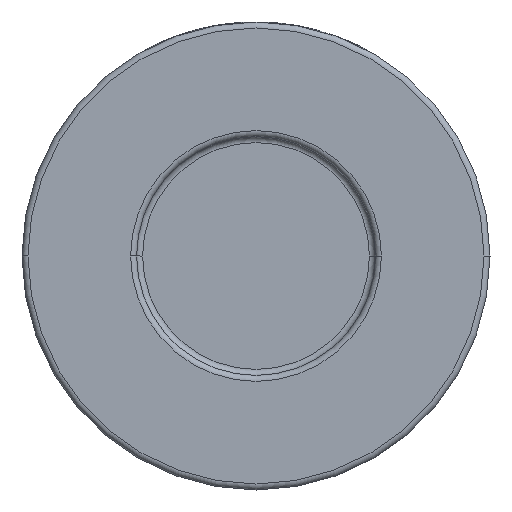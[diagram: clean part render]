
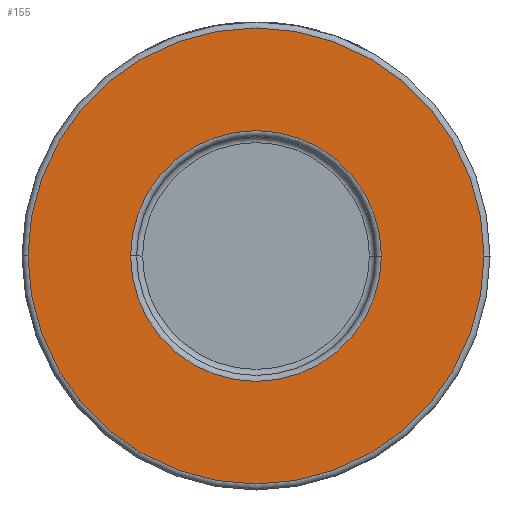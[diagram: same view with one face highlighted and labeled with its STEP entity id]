
A CAD part, front view. The second image highlights one B-rep face of the part: STEP entity #155.
In plain terms, the highlighted planar face has unit normal (0, -1, 0).
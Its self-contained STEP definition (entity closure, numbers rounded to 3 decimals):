
#155 = ADVANCED_FACE ( 'NONE', ( #4106, #3413 ), #582, .T. ) ;
#183 = CARTESIAN_POINT ( 'NONE',  ( 38., -26., 0. ) ) ;
#191 = DIRECTION ( 'NONE',  ( 0., -1., 0. ) ) ;
#514 = VERTEX_POINT ( 'NONE', #1449 ) ;
#582 = PLANE ( 'NONE',  #832 ) ;
#625 = DIRECTION ( 'NONE',  ( 0., -1., 0. ) ) ;
#628 = AXIS2_PLACEMENT_3D ( 'NONE', #3339, #191, #2307 ) ;
#665 = DIRECTION ( 'NONE',  ( 1., 0., 0. ) ) ;
#666 = ORIENTED_EDGE ( 'NONE', *, *, #3635, .T. ) ;
#690 = DIRECTION ( 'NONE',  ( 0., -1., 0. ) ) ;
#825 = ORIENTED_EDGE ( 'NONE', *, *, #3948, .T. ) ;
#832 = AXIS2_PLACEMENT_3D ( 'NONE', #924, #625, #2360 ) ;
#924 = CARTESIAN_POINT ( 'NONE',  ( 39., -26., 0. ) ) ;
#1343 = ORIENTED_EDGE ( 'NONE', *, *, #4545, .T. ) ;
#1398 = DIRECTION ( 'NONE',  ( 1., 0., 0. ) ) ;
#1435 = CIRCLE ( 'NONE', #628, 38. ) ;
#1449 = CARTESIAN_POINT ( 'NONE',  ( -38., -26., 0. ) ) ;
#1586 = DIRECTION ( 'NONE',  ( 0., 1., 0. ) ) ;
#1695 = VERTEX_POINT ( 'NONE', #2988 ) ;
#1779 = CARTESIAN_POINT ( 'NONE',  ( 0., -26., 0. ) ) ;
#1901 = EDGE_LOOP ( 'NONE', ( #3006, #1343 ) ) ;
#2180 = VERTEX_POINT ( 'NONE', #183 ) ;
#2307 = DIRECTION ( 'NONE',  ( 1., 0., 0. ) ) ;
#2360 = DIRECTION ( 'NONE',  ( 1., 0., 0. ) ) ;
#2375 = DIRECTION ( 'NONE',  ( 1., 0., 0. ) ) ;
#2401 = AXIS2_PLACEMENT_3D ( 'NONE', #3338, #1586, #2375 ) ;
#2988 = CARTESIAN_POINT ( 'NONE',  ( 20.9, -26., 0. ) ) ;
#3006 = ORIENTED_EDGE ( 'NONE', *, *, #3718, .T. ) ;
#3132 = CIRCLE ( 'NONE', #3710, 38. ) ;
#3279 = AXIS2_PLACEMENT_3D ( 'NONE', #4195, #3821, #665 ) ;
#3338 = CARTESIAN_POINT ( 'NONE',  ( 0., -26., 0. ) ) ;
#3339 = CARTESIAN_POINT ( 'NONE',  ( 0., -26., 0. ) ) ;
#3413 = FACE_OUTER_BOUND ( 'NONE', #1901, .T. ) ;
#3635 = EDGE_CURVE ( 'NONE', #3755, #1695, #4380, .T. ) ;
#3710 = AXIS2_PLACEMENT_3D ( 'NONE', #1779, #690, #1398 ) ;
#3718 = EDGE_CURVE ( 'NONE', #2180, #514, #3132, .T. ) ;
#3755 = VERTEX_POINT ( 'NONE', #3826 ) ;
#3821 = DIRECTION ( 'NONE',  ( 0., 1., 0. ) ) ;
#3826 = CARTESIAN_POINT ( 'NONE',  ( -20.9, -26., 0. ) ) ;
#3886 = EDGE_LOOP ( 'NONE', ( #825, #666 ) ) ;
#3948 = EDGE_CURVE ( 'NONE', #1695, #3755, #4446, .T. ) ;
#4106 = FACE_BOUND ( 'NONE', #3886, .T. ) ;
#4195 = CARTESIAN_POINT ( 'NONE',  ( 0., -26., 0. ) ) ;
#4380 = CIRCLE ( 'NONE', #2401, 20.9 ) ;
#4446 = CIRCLE ( 'NONE', #3279, 20.9 ) ;
#4545 = EDGE_CURVE ( 'NONE', #514, #2180, #1435, .T. ) ;
